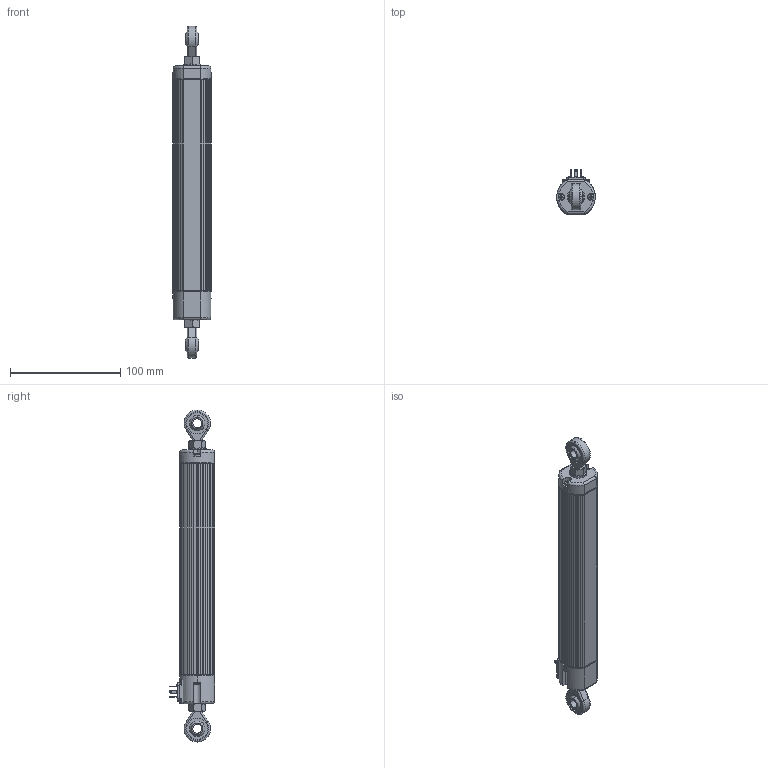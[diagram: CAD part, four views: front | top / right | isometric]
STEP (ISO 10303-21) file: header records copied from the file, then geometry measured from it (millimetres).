
FILE_DESCRIPTION (( 'STEP AP203' ), '1' );
FILE_NAME ('PC-M-0100.STEP', '2016-05-17T15:52:08', ( '' ), ( '' ), 'SwSTEP 2.0', 'SolidWorks 2015', '' );
FILE_SCHEMA (( 'CONFIG_CONTROL_DESIGN' ));
Length unit declared in the file: millimetre
Products named in the file (17): MIM497X_Washer ISO 7089 - 8; GUA015X; MIM208X_Hexagon Nut ISO - 4032 - M8 - D - S; GUA012X; SND008-2X; TES055X; SND008-1X; TES090X; SND008X; CTT138X; PC-M-0100; CTT139X; CUS544X; MIM862X_MIM862; ALB213X; MIM828X_ISO 7045 - M2.5 x 8 - Z --- 8S; TES058X
Assembly tree (26 placements, depth 3):
  PC-M-0100
    CUS544X
    ALB213X
    TES058X
    GUA015X
    GUA012X
    TES055X
    TES090X
    CTT138X  x3
    CTT139X
    MIM862X_MIM862  x4
    MIM828X_ISO 7045 - M2.5 x 8 - Z --- 8S  x4
    MIM497X_Washer ISO 7089 - 8
    MIM208X_Hexagon Nut ISO - 4032 - M8 - D - S  x2
    SND008X  x2
      SND008-2X
      SND008-1X
Bounding box: 35 x 40.9 x 301.5 mm (x, y, z)
Volume: 230520.8 mm3; surface area: 57203.9 mm2
Topology: 26 solids, 26 shells, 2258 faces, 5855 edges, 3646 vertices
Faces by surface type: cone 1054, cylinder 656, plane 437, torus 54, bspline 33, sphere 24
Entity records: 34090 total; most frequent: CARTESIAN_POINT 7214, DIRECTION 5585, ORIENTED_EDGE 5074, EDGE_CURVE 2537, AXIS2_PLACEMENT_3D 2194, VERTEX_POINT 1609, CIRCLE 1216, LINE 1197
